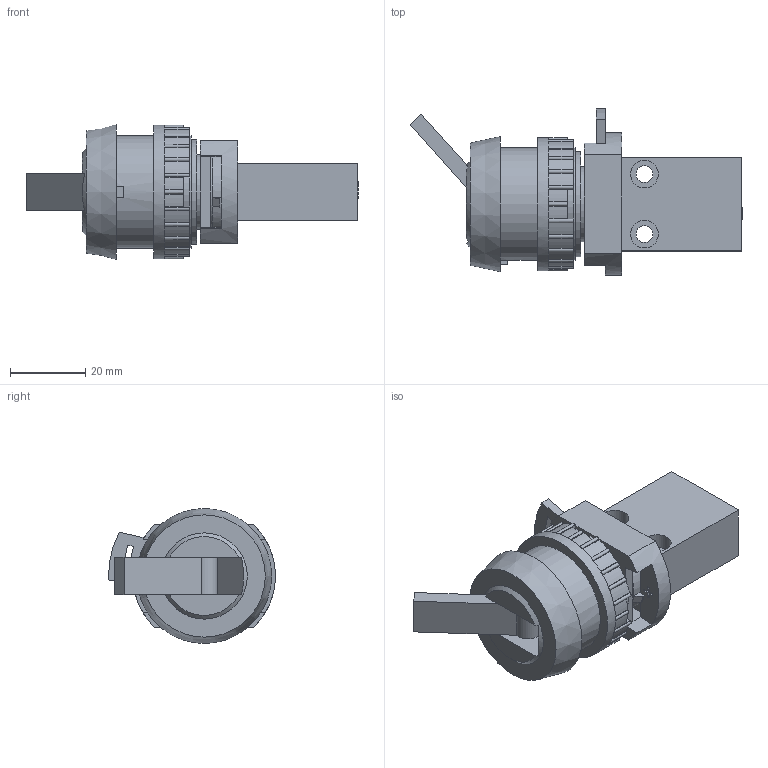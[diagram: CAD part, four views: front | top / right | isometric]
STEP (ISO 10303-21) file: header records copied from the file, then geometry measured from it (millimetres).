
FILE_DESCRIPTION (( 'STEP AP214' ), '1' );
FILE_NAME ('18-T-30-016---T-25-311_Airtec.step', '2018-11-15T13:15:13', ( '' ), ( '' ), 'SwSTEP 2.0', 'SolidWorks 2010', '' );
FILE_SCHEMA (( 'AUTOMOTIVE_DESIGN' ));
Length unit declared in the file: millimetre
Products named in the file (3): 18-T-30-016-Airtec; T-25-311_161206; 18-T-30-016---T-25-311_Airtec
Assembly tree (2 placements, depth 2):
  18-T-30-016---T-25-311_Airtec
    T-25-311_161206
    18-T-30-016-Airtec
Bounding box: 88.5 x 44.48 x 36 mm (x, y, z)
Volume: 43487 mm3; surface area: 15829.1 mm2
Topology: 2 solids, 2 shells, 390 faces, 1059 edges, 683 vertices
Faces by surface type: plane 186, cylinder 145, cone 45, torus 13, sphere 1
Full cylindrical faces by diameter (mm): 2.693 x2, 3.2 x2, 4.134 x2, 4.5 x2, 5.7 x2, 6 x1, 7.4 x4, 10 x1, 16 x1, 20 x1, 20.3 x1, 28 x1, 30 x2, 35.5 x1
Entity records: 12563 total; most frequent: CARTESIAN_POINT 2639, DIRECTION 2152, ORIENTED_EDGE 2018, EDGE_CURVE 1009, AXIS2_PLACEMENT_3D 853, VERTEX_POINT 670, CIRCLE 458, EDGE_LOOP 455
